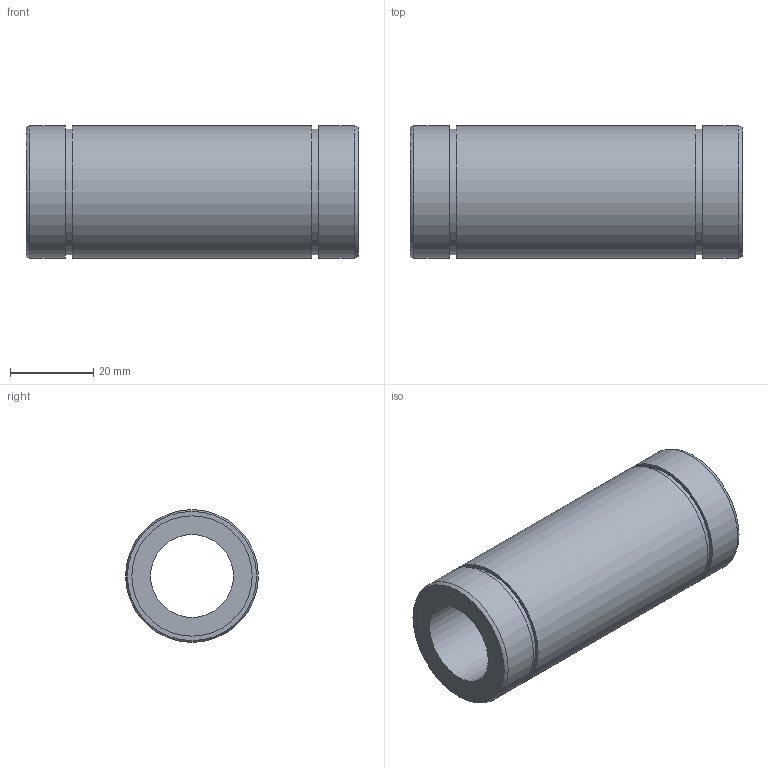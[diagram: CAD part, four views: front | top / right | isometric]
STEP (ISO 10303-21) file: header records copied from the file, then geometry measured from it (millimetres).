
FILE_DESCRIPTION((''),'2;1');
FILE_NAME('D:\製品 (図面)\カタログ用3D\リニアベアリング関連\STEP形式\LD\LD20.stp','2010-06-02T17:41:08',('Tsuchiya'),(''),'Autodesk Inventor 10','Autodesk Inventor 10','');
FILE_SCHEMA(('AUTOMOTIVE_DESIGN { 1 0 10303 214 1 1 1 1 }'));
Length unit declared in the file: millimetre
Products named in the file (1): LD20
Bounding box: 80 x 32 x 32 mm (x, y, z)
Volume: 38837.9 mm3; surface area: 14303 mm2
Topology: 1 solids, 1 shells, 18 faces, 28 edges, 18 vertices
Faces by surface type: plane 8, cylinder 8, torus 2
Full cylindrical faces by diameter (mm): 20 x1, 29 x2, 30.3 x2, 32 x3
Entity records: 391 total; most frequent: DIRECTION 74, CARTESIAN_POINT 55, AXIS2_PLACEMENT_3D 37, ORIENTED_EDGE 36, EDGE_LOOP 36, VERTEX_POINT 18, CIRCLE 18, EDGE_CURVE 18
